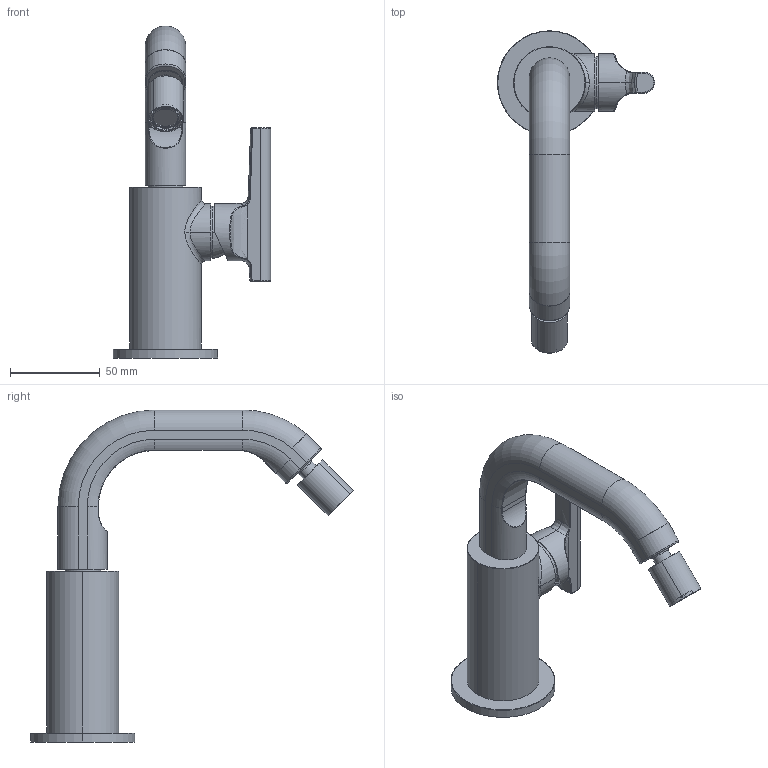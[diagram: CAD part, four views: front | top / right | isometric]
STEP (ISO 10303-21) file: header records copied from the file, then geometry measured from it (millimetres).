
FILE_DESCRIPTION((''),'2;1');
FILE_NAME('DIS_3D_J308WF','2026-02-04T08:17:41',('Luca'),(''),'CREO PARAMETRIC BY PTC INC, 2025010','CREO PARAMETRIC BY PTC INC, 2025010','');
FILE_SCHEMA(('AUTOMOTIVE_DESIGN { 1 0 10303 214 1 1 1 1 }'));
Length unit declared in the file: millimetre
Products named in the file (1): DIS_3D_J308WF
Bounding box: 87.5 x 179.64 x 184.75 mm (x, y, z)
Volume: 215713.5 mm3; surface area: 54222.7 mm2
Topology: 1 solids, 4 shells, 304 faces, 752 edges, 472 vertices
Faces by surface type: cylinder 105, plane 79, torus 55, bspline 52, cone 7, extrusion 4, sphere 2
Entity records: 20113 total; most frequent: CARTESIAN_POINT 10798, ORIENTED_EDGE 1500, DIRECTION 1479, EDGE_CURVE 750, AXIS2_PLACEMENT_3D 630, VERTEX_POINT 472, CIRCLE 375, EDGE_LOOP 326
